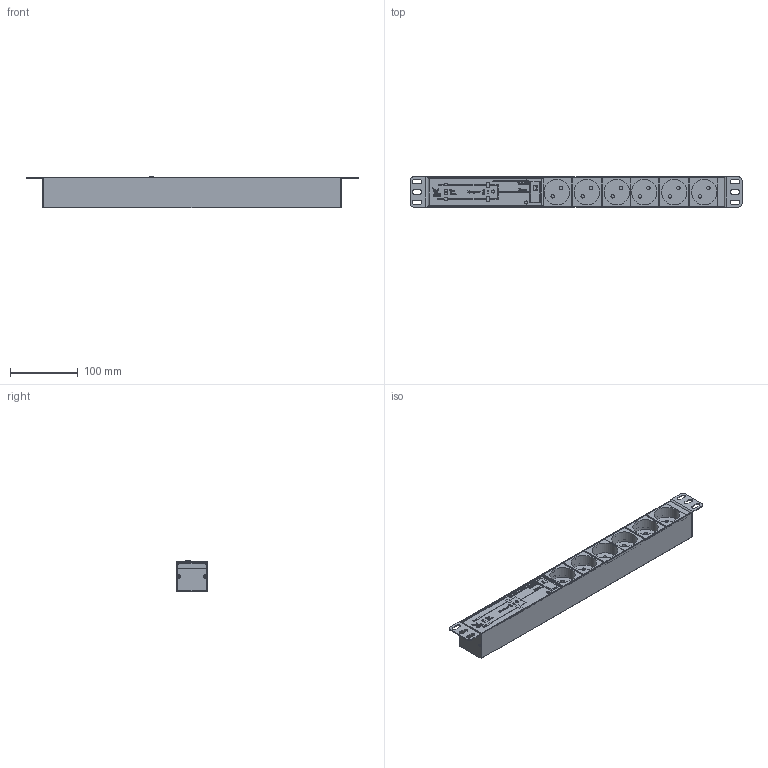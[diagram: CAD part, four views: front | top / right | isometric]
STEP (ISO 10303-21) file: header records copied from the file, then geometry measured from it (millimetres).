
FILE_DESCRIPTION(('STEP AP242'), '1');
FILE_NAME('SNR-PDU-09S-2 Áëîê ðîçåòîê — êîïèÿ', '', ('UNSPECIFIED'), ('UNSPECIFIED'), 'ASCON STEP Converter 1.6', 'ASCON Math Kernel', '');
FILE_SCHEMA(('AP242_MANAGED_MODEL_BASED_3D_ENGINEERING_MIM_LF { 1 0 10303 442 1 1 4 }'));
Length unit declared in the file: millimetre
Products named in the file (11): SNR-PDU-09S-2; 8.055.063; IRS-1-B15; 5.052.194; 8.052.334; BSO-M3-06
Assembly tree (14 placements, depth 3):
  SNR-PDU-09S-2
    (unnamed)
    8.055.063
    (unnamed)  x2
    (unnamed)
    8.055.063
    IRS-1-B15
    5.052.194
      8.052.334
      BSO-M3-06  x4
    (unnamed)
Bounding box: 490 x 44.5 x 46.8 mm (x, y, z)
Volume: 259150.6 mm3; surface area: 257908.2 mm2
Topology: 18 solids, 18 shells, 2163 faces, 5813 edges, 3846 vertices
Faces by surface type: plane 1231, extrusion 812, cylinder 114, cone 5, bspline 1
Full cylindrical faces by diameter (mm): 2.5 x4, 4 x4, 4.2 x12, 5 x24, 8 x12, 37.5 x6
Entity records: 83232 total; most frequent: CARTESIAN_POINT 19053, ORIENTED_EDGE 10772, DIRECTION 7162, EDGE_CURVE 5386, VECTOR 4394, VERTEX_POINT 3592, LINE 3582, B_SPLINE_CURVE_WITH_KNOTS 2438
